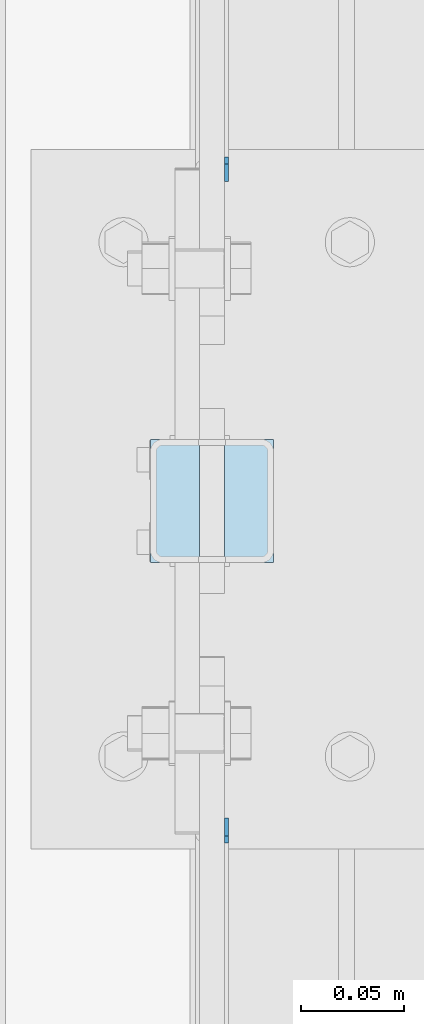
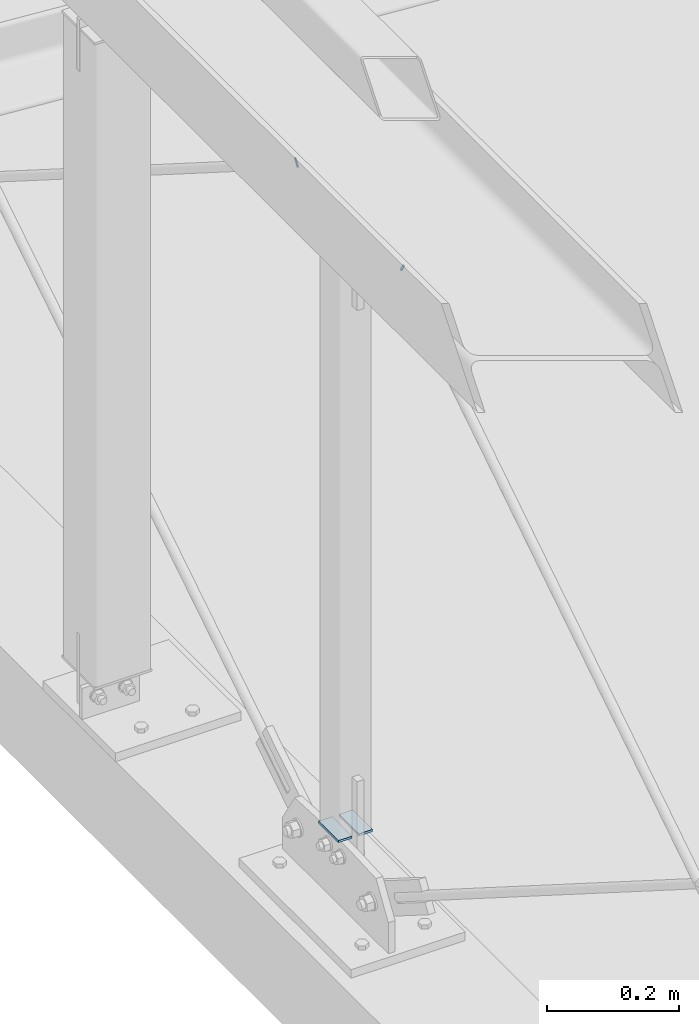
# One storey, part 200 of 271: 4 plates, 3 elements without a shape of their own.
"""IFC2X3 building model written with IfcOpenShell, lengths in millimetres."""

from ifc_helpers import new_model, si_unit, frame, origin_with_axes, place, context, subcontext, project, spatial, polyline, outline, extrude, material, type_object, element, aggregate, save


model = new_model("IFC2X3")

# Units and contexts
model_context = context("Model", 3, precision=1e-05, world=origin_with_axes())
body_context = subcontext(model_context, "Body", "Model", "MODEL_VIEW")
ifc_project = project(units=[si_unit("LENGTHUNIT", "METRE", prefix="MILLI"), si_unit("AREAUNIT", "SQUARE_METRE"), si_unit("VOLUMEUNIT", "CUBIC_METRE"), si_unit("MASSUNIT", "GRAM", prefix="KILO"), si_unit("TIMEUNIT", "SECOND"), si_unit("PLANEANGLEUNIT", "RADIAN"), si_unit("SOLIDANGLEUNIT", "STERADIAN"), si_unit("THERMODYNAMICTEMPERATUREUNIT", "DEGREE_CELSIUS"), si_unit("LUMINOUSINTENSITYUNIT", "LUMEN")], contexts=[model_context])

# Site, building, storey
site_placement = place(None, origin_with_axes())
site = spatial("IfcSite", under=ifc_project, at=site_placement, Name="Undefined", CompositionType="ELEMENT")
building_placement = place(site_placement, origin_with_axes())
building = spatial("IfcBuilding", under=site, at=building_placement, Name="Undefined", CompositionType="ELEMENT")
storey_placement = place(building_placement, origin_with_axes())
storey = spatial("IfcBuildingStorey", under=building, at=storey_placement, Name="Undefined", CompositionType="ELEMENT", Elevation=0.0)

# Assembly, plate
assembly_1_placement = place(storey_placement, origin_with_axes())
assembly_1 = element("IfcElementAssembly", 1, at=assembly_1_placement, inside=storey, AssemblyPlace="NOTDEFINED", PredefinedType="RIGID_FRAME")
ifc_material = material(Name="STEEL/S355JR")
plate_type_1 = type_object("IfcPlateType", Name="BL4*2", PredefinedType="NOTDEFINED")
plate_1_placement = place(assembly_1_placement, frame((105.0, 2336.08950500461, 1255.49316301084), z_axis=(0.0, 0.84477188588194, -0.535126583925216), x_axis=(0.0, 0.535126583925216, 0.84477188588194)))
plate_1 = element("IfcPlate", 2, at=plate_1_placement, type_object=plate_type_1, material=ifc_material, Name="BLACHA", ObjectType="BL4*2", context=body_context, shape_type="SweptSolid", body=[
    extrude(outline(polyline([(0.0, 0.0), (15.9999980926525, -7.67386154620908e-13), (15.9999980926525, 1.99999964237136), (0.0, 1.99999964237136), (0.0, 0.0)])), frame((0.0, 0.0, -2.0), z_axis=(0.0, 0.0, 1.0), x_axis=(1.0, 0.0, 0.0)), (0.0, 0.0, 1.0), 4.0),
])
aggregate(assembly_1, [plate_1])

assembly_2_placement = place(storey_placement, origin_with_axes())
assembly_2 = element("IfcElementAssembly", 3, at=assembly_2_placement, inside=storey, AssemblyPlace="NOTDEFINED", PredefinedType="RIGID_FRAME")
plate_2_placement = place(assembly_2_placement, frame((105.0, 2014.7237133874, 1268.76538503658), z_axis=(0.0, -0.842696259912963, -0.538389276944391), x_axis=(0.0, 0.538389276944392, -0.842696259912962)))
plate_2 = element("IfcPlate", 4, at=plate_2_placement, type_object=plate_type_1, material=ifc_material, Name="BLACHA", ObjectType="BL4*2", context=body_context, shape_type="SweptSolid", body=[
    extrude(outline(polyline([(0.0, 0.0), (15.9999980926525, -7.67386154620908e-13), (15.9999980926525, 1.99999964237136), (0.0, 1.99999964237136), (0.0, 0.0)])), frame((0.0, 0.0, -2.0), z_axis=(0.0, 0.0, 1.0), x_axis=(1.0, 0.0, 0.0)), (0.0, 0.0, 1.0), 4.0),
])
aggregate(assembly_2, [plate_2])

# Assembly, plates
assembly_3_placement = place(storey_placement, origin_with_axes())
assembly_3 = element("IfcElementAssembly", 5, at=assembly_3_placement, inside=storey, AssemblyPlace="NOTDEFINED", PredefinedType="RIGID_FRAME")
plate_type_2 = type_object("IfcPlateType", Name="BL4*24", PredefinedType="NOTDEFINED")
plate_3_placement = place(assembly_3_placement, frame((128.999999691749, 2209.19355050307, 132.349999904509), z_axis=(0.0, 0.0, 1.0), x_axis=(-1.0, 0.0, 1.38777878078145e-17)))
plate_3 = element("IfcPlate", 6, at=plate_3_placement, type_object=plate_type_2, material=ifc_material, Name="BLACHA", ObjectType="BL4*24", context=body_context, shape_type="SweptSolid", body=[
    extrude(outline(polyline([(0.0, 0.0), (24.0, 0.0), (24.0, 60.0), (0.0, 60.0), (0.0, 0.0)])), frame((0.0, 0.0, -2.0), z_axis=(0.0, 0.0, 1.0), x_axis=(1.0, 0.0, 0.0)), (0.0, 0.0, 1.0), 4.0),
])
plate_4_placement = place(assembly_3_placement, frame((93.0000000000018, 2209.19355050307, 132.349999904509), z_axis=(0.0, 0.0, 1.0), x_axis=(-1.0, 0.0, 1.38777878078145e-17)))
plate_4 = element("IfcPlate", 7, at=plate_4_placement, type_object=plate_type_2, material=ifc_material, Name="BLACHA", ObjectType="BL4*24", context=body_context, shape_type="SweptSolid", body=[
    extrude(outline(polyline([(0.0, 0.0), (24.0, 0.0), (24.0, 60.0), (0.0, 60.0), (0.0, 0.0)])), frame((0.0, 0.0, -2.0), z_axis=(0.0, 0.0, 1.0), x_axis=(1.0, 0.0, 0.0)), (0.0, 0.0, 1.0), 4.0),
])
aggregate(assembly_3, [plate_3, plate_4])

save(model, "model.ifc")
